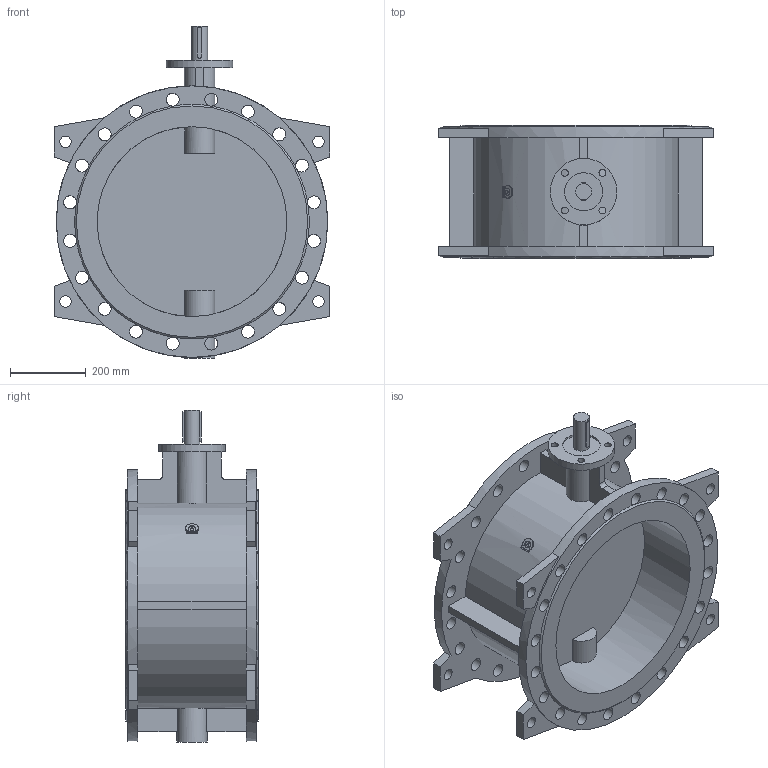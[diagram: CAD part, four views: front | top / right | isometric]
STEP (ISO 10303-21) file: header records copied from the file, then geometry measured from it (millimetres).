
FILE_DESCRIPTION(('STEP AP203'), '1');
FILE_NAME('Çàòâîð 023F.Z DN500 PN16_èñï', '', ('UNSPECIFIED'), ('UNSPECIFIED'), 'ASCON STEP Converter 1.6', 'ASCON Math Kernel', '');
FILE_SCHEMA(('CONFIG_CONTROL_DESIGN'));
Length unit declared in the file: millimetre
Bounding box: 726 x 350 x 874 mm (x, y, z)
Volume: 34110567.1 mm3; surface area: 2688016.2 mm2
Topology: 1 solids, 1 shells, 166 faces, 573 edges, 382 vertices
Faces by surface type: plane 85, cylinder 79, cone 2
Full cylindrical faces by diameter (mm): 18 x4, 30 x8, 34 x40, 42 x1, 80 x1, 100 x1, 175 x1, 500 x2, 715 x2
Entity records: 10121 total; most frequent: CARTESIAN_POINT 3729, DIRECTION 1038, ORIENTED_EDGE 1020, EDGE_CURVE 510, AXIS2_PLACEMENT_3D 420, VERTEX_POINT 382, EDGE_LOOP 306, CIRCLE 253
